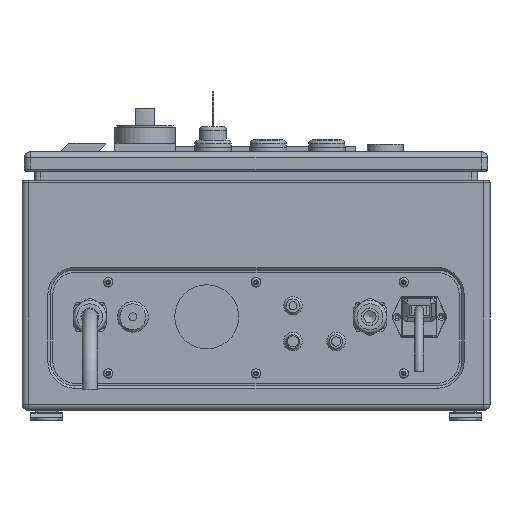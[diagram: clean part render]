
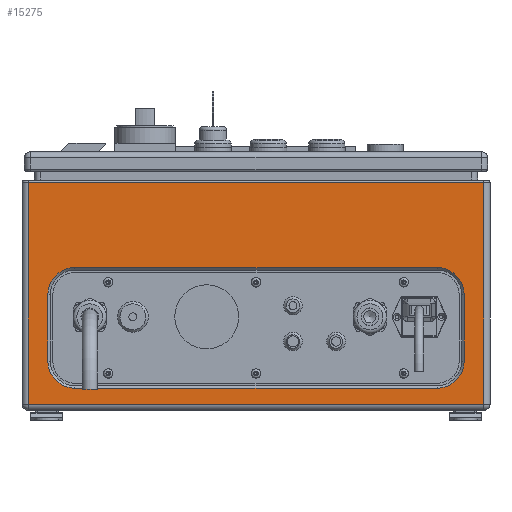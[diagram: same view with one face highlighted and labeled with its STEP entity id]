
A CAD part, front view. The second image highlights one B-rep face of the part: STEP entity #15275.
In plain terms, the highlighted planar face has unit normal (0, -1, 0).
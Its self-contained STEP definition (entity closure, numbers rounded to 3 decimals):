
#14975=CARTESIAN_POINT('',(-147.,-190.,116.0));
#14976=VERTEX_POINT('',#14975);
#14993=CARTESIAN_POINT('',(147.,-190.0,116.0));
#14994=VERTEX_POINT('',#14993);
#15001=CARTESIAN_POINT('',(147.,-190.0,116.0));
#15002=DIRECTION('',(-1.0,0.0,0.0));
#15003=VECTOR('',#15002,294.0);
#15004=LINE('',#15001,#15003);
#15005=EDGE_CURVE('',#14994,#14976,#15004,.T.);
#15015=CARTESIAN_POINT('',(-169.,-190.,94.0));
#15016=VERTEX_POINT('',#15015);
#15033=CARTESIAN_POINT('',(-147.,-190.,94.0));
#15034=DIRECTION('',(0.0,-1.0,0.0));
#15035=DIRECTION('',(0.0,0.0,1.0));
#15036=AXIS2_PLACEMENT_3D('',#15033,#15034,#15035);
#15037=CIRCLE('',#15036,22.);
#15038=EDGE_CURVE('',#14976,#15016,#15037,.T.);
#15058=CARTESIAN_POINT('',(169.,-190.0,94.0));
#15059=VERTEX_POINT('',#15058);
#15066=CARTESIAN_POINT('',(147.,-190.0,94.0));
#15067=DIRECTION('',(0.0,-1.0,0.0));
#15068=DIRECTION('',(1.0,0.0,0.0));
#15069=AXIS2_PLACEMENT_3D('',#15066,#15067,#15068);
#15070=CIRCLE('',#15069,22.);
#15071=EDGE_CURVE('',#15059,#14994,#15070,.T.);
#15081=CARTESIAN_POINT('',(-169.,-190.,40.));
#15082=VERTEX_POINT('',#15081);
#15098=CARTESIAN_POINT('',(-169.,-190.,94.0));
#15099=DIRECTION('',(0.0,0.0,-1.0));
#15100=VECTOR('',#15099,54.);
#15101=LINE('',#15098,#15100);
#15102=EDGE_CURVE('',#15016,#15082,#15101,.T.);
#15121=CARTESIAN_POINT('',(169.0,-190.0,40.));
#15122=VERTEX_POINT('',#15121);
#15129=CARTESIAN_POINT('',(169.0,-190.0,40.));
#15130=DIRECTION('',(0.0,0.0,1.0));
#15131=VECTOR('',#15130,54.);
#15132=LINE('',#15129,#15131);
#15133=EDGE_CURVE('',#15122,#15059,#15132,.T.);
#15143=CARTESIAN_POINT('',(-147.,-190.,18.));
#15144=VERTEX_POINT('',#15143);
#15161=CARTESIAN_POINT('',(-147.,-190.,40.));
#15162=DIRECTION('',(0.0,-1.0,0.0));
#15163=DIRECTION('',(-1.0,0.0,0.0));
#15164=AXIS2_PLACEMENT_3D('',#15161,#15162,#15163);
#15165=CIRCLE('',#15164,22.0);
#15166=EDGE_CURVE('',#15082,#15144,#15165,.T.);
#15186=CARTESIAN_POINT('',(147.0,-190.0,18.));
#15187=VERTEX_POINT('',#15186);
#15194=CARTESIAN_POINT('',(147.0,-190.0,40.));
#15195=DIRECTION('',(0.0,-1.0,0.0));
#15196=DIRECTION('',(0.0,0.0,-1.0));
#15197=AXIS2_PLACEMENT_3D('',#15194,#15195,#15196);
#15198=CIRCLE('',#15197,22.0);
#15199=EDGE_CURVE('',#15187,#15122,#15198,.T.);
#15217=CARTESIAN_POINT('',(-147.,-190.,18.));
#15218=DIRECTION('',(1.0,0.0,0.0));
#15219=VECTOR('',#15218,294.0);
#15220=LINE('',#15217,#15219);
#15221=EDGE_CURVE('',#15144,#15187,#15220,.T.);
#15226=CARTESIAN_POINT('',(190.,-190.0,0.0));
#15227=DIRECTION('',(0.0,-1.0,0.0));
#15228=DIRECTION('',(0.0,0.0,-1.0));
#15229=AXIS2_PLACEMENT_3D('',#15226,#15227,#15228);
#15230=PLANE('',#15229);
#15231=CARTESIAN_POINT('',(185.,-190.0,5.0));
#15232=VERTEX_POINT('',#15231);
#15233=CARTESIAN_POINT('',(-185.,-190.,5.0));
#15234=VERTEX_POINT('',#15233);
#15235=CARTESIAN_POINT('',(185.,-190.,5.0));
#15236=DIRECTION('',(-1.0,0.0,0.0));
#15237=VECTOR('',#15236,370.0);
#15238=LINE('',#15235,#15237);
#15239=EDGE_CURVE('',#15232,#15234,#15238,.T.);
#15240=ORIENTED_EDGE('',*,*,#15239,.F.);
#15241=CARTESIAN_POINT('',(185.,-190.0,185.0));
#15242=VERTEX_POINT('',#15241);
#15243=CARTESIAN_POINT('',(185.,-190.0,185.0));
#15244=DIRECTION('',(0.0,0.0,-1.0));
#15245=VECTOR('',#15244,180.0);
#15246=LINE('',#15243,#15245);
#15247=EDGE_CURVE('',#15242,#15232,#15246,.T.);
#15248=ORIENTED_EDGE('',*,*,#15247,.F.);
#15249=CARTESIAN_POINT('',(-185.,-190.,185.0));
#15250=VERTEX_POINT('',#15249);
#15251=CARTESIAN_POINT('',(-185.,-190.,185.0));
#15252=DIRECTION('',(1.0,0.0,0.0));
#15253=VECTOR('',#15252,370.0);
#15254=LINE('',#15251,#15253);
#15255=EDGE_CURVE('',#15250,#15242,#15254,.T.);
#15256=ORIENTED_EDGE('',*,*,#15255,.F.);
#15257=CARTESIAN_POINT('',(-185.,-190.,5.0));
#15258=DIRECTION('',(0.0,0.0,1.0));
#15259=VECTOR('',#15258,180.0);
#15260=LINE('',#15257,#15259);
#15261=EDGE_CURVE('',#15234,#15250,#15260,.T.);
#15262=ORIENTED_EDGE('',*,*,#15261,.F.);
#15263=EDGE_LOOP('',(#15240,#15248,#15256,#15262));
#15264=FACE_OUTER_BOUND('',#15263,.T.);
#15265=ORIENTED_EDGE('',*,*,#15005,.F.);
#15266=ORIENTED_EDGE('',*,*,#15071,.F.);
#15267=ORIENTED_EDGE('',*,*,#15133,.F.);
#15268=ORIENTED_EDGE('',*,*,#15199,.F.);
#15269=ORIENTED_EDGE('',*,*,#15221,.F.);
#15270=ORIENTED_EDGE('',*,*,#15166,.F.);
#15271=ORIENTED_EDGE('',*,*,#15102,.F.);
#15272=ORIENTED_EDGE('',*,*,#15038,.F.);
#15273=EDGE_LOOP('',(#15265,#15266,#15267,#15268,#15269,#15270,#15271,#15272));
#15274=FACE_BOUND('',#15273,.T.);
#15275=ADVANCED_FACE('',(#15264,#15274),#15230,.T.);
